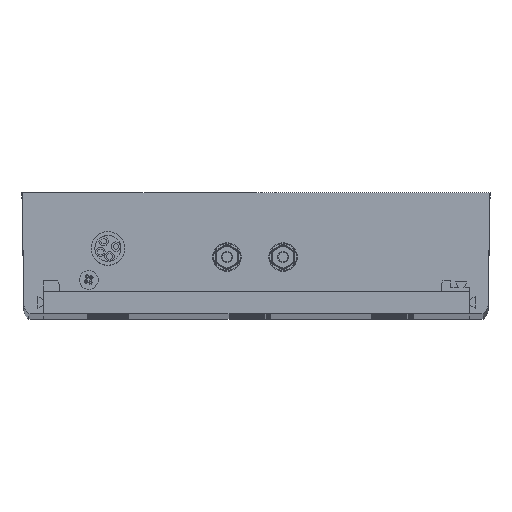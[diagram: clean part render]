
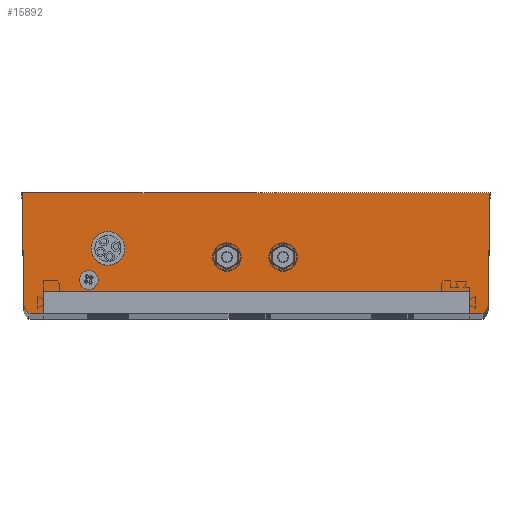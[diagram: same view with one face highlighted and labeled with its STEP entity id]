
A CAD part, top view. The second image highlights one B-rep face of the part: STEP entity #15892.
In plain terms, the highlighted planar face has unit normal (0, 0, 1).
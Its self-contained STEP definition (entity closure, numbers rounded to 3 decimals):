
#150 = AXIS2_PLACEMENT_3D ( 'NONE', #2966, #25198, #21028 ) ;
#685 = EDGE_LOOP ( 'NONE', ( #18850, #6253 ) ) ;
#1645 = VERTEX_POINT ( 'NONE', #8021 ) ;
#2001 = CARTESIAN_POINT ( 'NONE',  ( 28.61, 0.563, 0. ) ) ;
#2128 = DIRECTION ( 'NONE',  ( 1., 0., 0. ) ) ;
#2280 = CIRCLE ( 'NONE', #18657, 2.95 ) ;
#2811 = CARTESIAN_POINT ( 'NONE',  ( 31.56, 0.563, 0. ) ) ;
#2818 = VECTOR ( 'NONE', #4918, 1000. ) ;
#2966 = CARTESIAN_POINT ( 'NONE',  ( 0., 0., 0. ) ) ;
#3043 = CARTESIAN_POINT ( 'NONE',  ( 40.66, 0.563, 0. ) ) ;
#3270 = CARTESIAN_POINT ( 'NONE',  ( 97.084, -14.637, 0. ) ) ;
#3324 = EDGE_CURVE ( 'NONE', #4415, #17229, #9631, .T. ) ;
#3408 = CARTESIAN_POINT ( 'NONE',  ( 93.475, -14.637, 0. ) ) ;
#3465 = DIRECTION ( 'NONE',  ( 1., 0., 0. ) ) ;
#3572 = ORIENTED_EDGE ( 'NONE', *, *, #14010, .T. ) ;
#3805 = CIRCLE ( 'NONE', #16799, 3. ) ;
#3948 = LINE ( 'NONE', #16138, #8035 ) ;
#4238 = VECTOR ( 'NONE', #4896, 1000. ) ;
#4415 = VERTEX_POINT ( 'NONE', #2811 ) ;
#4694 = VERTEX_POINT ( 'NONE', #13272 ) ;
#4896 = DIRECTION ( 'NONE',  ( -0.017, 1., 0. ) ) ;
#4918 = DIRECTION ( 'NONE',  ( 0., -1., 0. ) ) ;
#5041 = AXIS2_PLACEMENT_3D ( 'NONE', #2001, #25540, #16003 ) ;
#5058 = DIRECTION ( 'NONE',  ( 1., 0., 0. ) ) ;
#5065 = CARTESIAN_POINT ( 'NONE',  ( 46.56, 0.563, 0. ) ) ;
#5132 = CARTESIAN_POINT ( 'NONE',  ( -25.735, -8.787, 0. ) ) ;
#5583 = ORIENTED_EDGE ( 'NONE', *, *, #14087, .T. ) ;
#6039 = CARTESIAN_POINT ( 'NONE',  ( -24.335, -14.637, 0. ) ) ;
#6045 = CARTESIAN_POINT ( 'NONE',  ( 43.61, 0.563, 0. ) ) ;
#6253 = ORIENTED_EDGE ( 'NONE', *, *, #7089, .F. ) ;
#6310 = CARTESIAN_POINT ( 'NONE',  ( 25.66, 0.563, 0. ) ) ;
#6653 = CARTESIAN_POINT ( 'NONE',  ( 0., -14.637, 0. ) ) ;
#7089 = EDGE_CURVE ( 'NONE', #17229, #4415, #11438, .T. ) ;
#7147 = CARTESIAN_POINT ( 'NONE',  ( 95.426, -12.137, 0. ) ) ;
#7218 = EDGE_LOOP ( 'NONE', ( #7307, #17270, #20658, #17007, #21819, #3572, #20484, #14932, #5583, #8747 ) ) ;
#7307 = ORIENTED_EDGE ( 'NONE', *, *, #17252, .T. ) ;
#7708 = CARTESIAN_POINT ( 'NONE',  ( 43.61, 0.563, 0. ) ) ;
#8005 = VECTOR ( 'NONE', #24068, 1000. ) ;
#8007 = CARTESIAN_POINT ( 'NONE',  ( -22.676, -12.137, 0. ) ) ;
#8021 = CARTESIAN_POINT ( 'NONE',  ( 93.475, -8.787, 0. ) ) ;
#8035 = VECTOR ( 'NONE', #15992, 1000. ) ;
#8153 = VECTOR ( 'NONE', #16592, 1000. ) ;
#8488 = DIRECTION ( 'NONE',  ( 1., 0., 0. ) ) ;
#8747 = ORIENTED_EDGE ( 'NONE', *, *, #10608, .F. ) ;
#9166 = VERTEX_POINT ( 'NONE', #25181 ) ;
#9408 = CIRCLE ( 'NONE', #13175, 3. ) ;
#9544 = LINE ( 'NONE', #11761, #19318 ) ;
#9631 = CIRCLE ( 'NONE', #5041, 2.95 ) ;
#9817 = VERTEX_POINT ( 'NONE', #5065 ) ;
#10187 = DIRECTION ( 'NONE',  ( 0., 0., 1. ) ) ;
#10534 = LINE ( 'NONE', #14888, #2818 ) ;
#10608 = EDGE_CURVE ( 'NONE', #15168, #13815, #23064, .T. ) ;
#10859 = VERTEX_POINT ( 'NONE', #6039 ) ;
#10897 = EDGE_CURVE ( 'NONE', #1645, #9166, #3948, .T. ) ;
#11438 = CIRCLE ( 'NONE', #17718, 2.95 ) ;
#11761 = CARTESIAN_POINT ( 'NONE',  ( 0., -14.637, 0. ) ) ;
#12358 = DIRECTION ( 'NONE',  ( 0., 0., 1. ) ) ;
#12909 = VERTEX_POINT ( 'NONE', #17012 ) ;
#12927 = EDGE_CURVE ( 'NONE', #13723, #12909, #3805, .T. ) ;
#13029 = LINE ( 'NONE', #25054, #8153 ) ;
#13175 = AXIS2_PLACEMENT_3D ( 'NONE', #8007, #12358, #2128 ) ;
#13185 = FACE_BOUND ( 'NONE', #685, .T. ) ;
#13272 = CARTESIAN_POINT ( 'NONE',  ( -20.425, -14.637, 0. ) ) ;
#13289 = VERTEX_POINT ( 'NONE', #3043 ) ;
#13723 = VERTEX_POINT ( 'NONE', #3270 ) ;
#13733 = DIRECTION ( 'NONE',  ( 1., 0., 0. ) ) ;
#13815 = VERTEX_POINT ( 'NONE', #19004 ) ;
#13904 = EDGE_CURVE ( 'NONE', #10859, #4694, #9544, .T. ) ;
#14010 = EDGE_CURVE ( 'NONE', #17497, #13723, #24310, .T. ) ;
#14050 = DIRECTION ( 'NONE',  ( 0., 0., 1. ) ) ;
#14087 = EDGE_CURVE ( 'NONE', #23294, #13815, #16628, .T. ) ;
#14127 = ORIENTED_EDGE ( 'NONE', *, *, #25714, .F. ) ;
#14888 = CARTESIAN_POINT ( 'NONE',  ( -20.425, -15.137, 0. ) ) ;
#14932 = ORIENTED_EDGE ( 'NONE', *, *, #19925, .T. ) ;
#15128 = LINE ( 'NONE', #21392, #24904 ) ;
#15168 = VERTEX_POINT ( 'NONE', #23682 ) ;
#15268 = DIRECTION ( 'NONE',  ( 0.017, 1., 0. ) ) ;
#15329 = EDGE_LOOP ( 'NONE', ( #14127, #25612 ) ) ;
#15892 = ADVANCED_FACE ( 'NONE', ( #24959, #13185, #22985 ), #17219, .T. ) ;
#15992 = DIRECTION ( 'NONE',  ( -1., 0., 0. ) ) ;
#16003 = DIRECTION ( 'NONE',  ( 1., 0., 0. ) ) ;
#16138 = CARTESIAN_POINT ( 'NONE',  ( -20.425, -8.787, 0. ) ) ;
#16592 = DIRECTION ( 'NONE',  ( 0., 1., 0. ) ) ;
#16628 = LINE ( 'NONE', #24463, #8005 ) ;
#16799 = AXIS2_PLACEMENT_3D ( 'NONE', #7147, #22998, #5058 ) ;
#16939 = EDGE_CURVE ( 'NONE', #17497, #1645, #13029, .T. ) ;
#17007 = ORIENTED_EDGE ( 'NONE', *, *, #10897, .F. ) ;
#17012 = CARTESIAN_POINT ( 'NONE',  ( 98.425, -12.19, 0. ) ) ;
#17219 = PLANE ( 'NONE',  #150 ) ;
#17229 = VERTEX_POINT ( 'NONE', #6310 ) ;
#17252 = EDGE_CURVE ( 'NONE', #15168, #10859, #9408, .T. ) ;
#17270 = ORIENTED_EDGE ( 'NONE', *, *, #13904, .T. ) ;
#17497 = VERTEX_POINT ( 'NONE', #3408 ) ;
#17718 = AXIS2_PLACEMENT_3D ( 'NONE', #24837, #25346, #3465 ) ;
#18030 = EDGE_CURVE ( 'NONE', #13289, #9817, #2280, .T. ) ;
#18657 = AXIS2_PLACEMENT_3D ( 'NONE', #7708, #10187, #13733 ) ;
#18850 = ORIENTED_EDGE ( 'NONE', *, *, #3324, .F. ) ;
#19004 = CARTESIAN_POINT ( 'NONE',  ( -26.199, 17.763, 0. ) ) ;
#19318 = VECTOR ( 'NONE', #23793, 1000. ) ;
#19925 = EDGE_CURVE ( 'NONE', #12909, #23294, #15128, .T. ) ;
#20053 = CARTESIAN_POINT ( 'NONE',  ( 98.948, 17.763, 0. ) ) ;
#20484 = ORIENTED_EDGE ( 'NONE', *, *, #12927, .T. ) ;
#20658 = ORIENTED_EDGE ( 'NONE', *, *, #21386, .F. ) ;
#21028 = DIRECTION ( 'NONE',  ( 1., 0., 0. ) ) ;
#21386 = EDGE_CURVE ( 'NONE', #9166, #4694, #10534, .T. ) ;
#21392 = CARTESIAN_POINT ( 'NONE',  ( 98.608, -1.721, 0. ) ) ;
#21819 = ORIENTED_EDGE ( 'NONE', *, *, #16939, .F. ) ;
#22026 = DIRECTION ( 'NONE',  ( 1., 0., 0. ) ) ;
#22337 = CIRCLE ( 'NONE', #22750, 2.95 ) ;
#22750 = AXIS2_PLACEMENT_3D ( 'NONE', #6045, #14050, #22026 ) ;
#22985 = FACE_OUTER_BOUND ( 'NONE', #7218, .T. ) ;
#22998 = DIRECTION ( 'NONE',  ( 0., 0., 1. ) ) ;
#23064 = LINE ( 'NONE', #5132, #4238 ) ;
#23294 = VERTEX_POINT ( 'NONE', #20053 ) ;
#23682 = CARTESIAN_POINT ( 'NONE',  ( -25.676, -12.19, 0. ) ) ;
#23793 = DIRECTION ( 'NONE',  ( 1., 0., 0. ) ) ;
#24068 = DIRECTION ( 'NONE',  ( -1., 0., 0. ) ) ;
#24310 = LINE ( 'NONE', #6653, #24751 ) ;
#24463 = CARTESIAN_POINT ( 'NONE',  ( -25.325, 17.763, 0. ) ) ;
#24751 = VECTOR ( 'NONE', #8488, 1000. ) ;
#24837 = CARTESIAN_POINT ( 'NONE',  ( 28.61, 0.563, 0. ) ) ;
#24904 = VECTOR ( 'NONE', #15268, 1000. ) ;
#24959 = FACE_BOUND ( 'NONE', #15329, .T. ) ;
#25054 = CARTESIAN_POINT ( 'NONE',  ( 93.475, -15.137, 0. ) ) ;
#25181 = CARTESIAN_POINT ( 'NONE',  ( -20.425, -8.787, 0. ) ) ;
#25198 = DIRECTION ( 'NONE',  ( 0., 0., 1. ) ) ;
#25346 = DIRECTION ( 'NONE',  ( 0., 0., 1. ) ) ;
#25540 = DIRECTION ( 'NONE',  ( 0., 0., 1. ) ) ;
#25612 = ORIENTED_EDGE ( 'NONE', *, *, #18030, .F. ) ;
#25714 = EDGE_CURVE ( 'NONE', #9817, #13289, #22337, .T. ) ;
